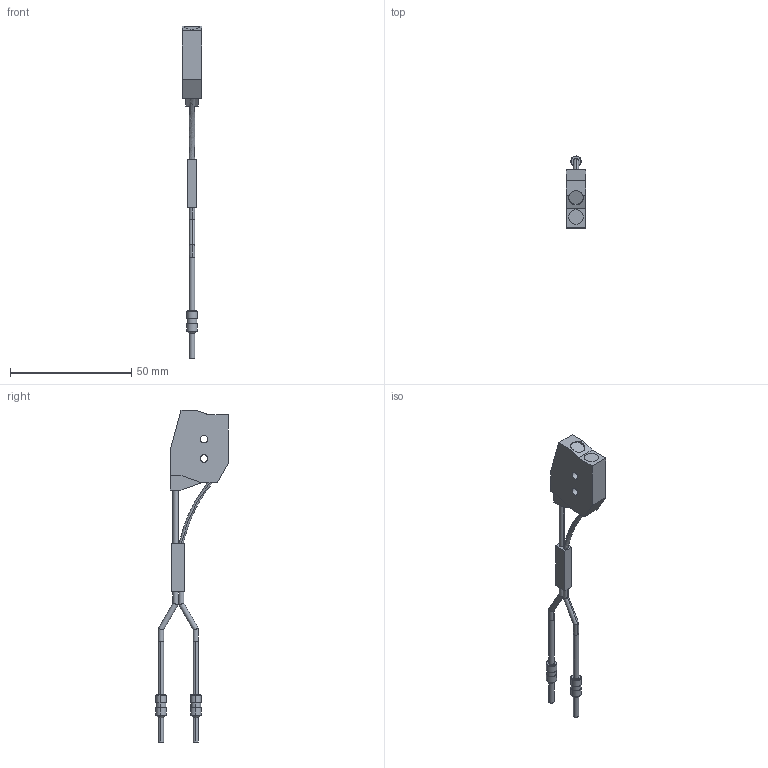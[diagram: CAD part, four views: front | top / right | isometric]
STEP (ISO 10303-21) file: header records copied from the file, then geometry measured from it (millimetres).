
FILE_DESCRIPTION (( 'STEP AP203' ), '1' );
FILE_NAME ('FD-L52.STEP', '2005-09-05T01:38:10', ( '川島良英' ), ( ' ' ), 'SwSTEP 2.0', 'SolidWorks 2004251', '' );
FILE_SCHEMA (( 'CONFIG_CONTROL_DESIGN' ));
Length unit declared in the file: millimetre
Products named in the file (1): FD-L52
Bounding box: 8 x 29.91 x 136.9 mm (x, y, z)
Volume: 6313.3 mm3; surface area: 4058.5 mm2
Topology: 3 solids, 3 shells, 90 faces, 197 edges, 124 vertices
Faces by surface type: cylinder 42, plane 38, cone 8, bspline 2
Entity records: 2626 total; most frequent: CARTESIAN_POINT 540, DIRECTION 435, ORIENTED_EDGE 394, EDGE_CURVE 197, AXIS2_PLACEMENT_3D 163, VERTEX_POINT 124, VECTOR 109, LINE 109
